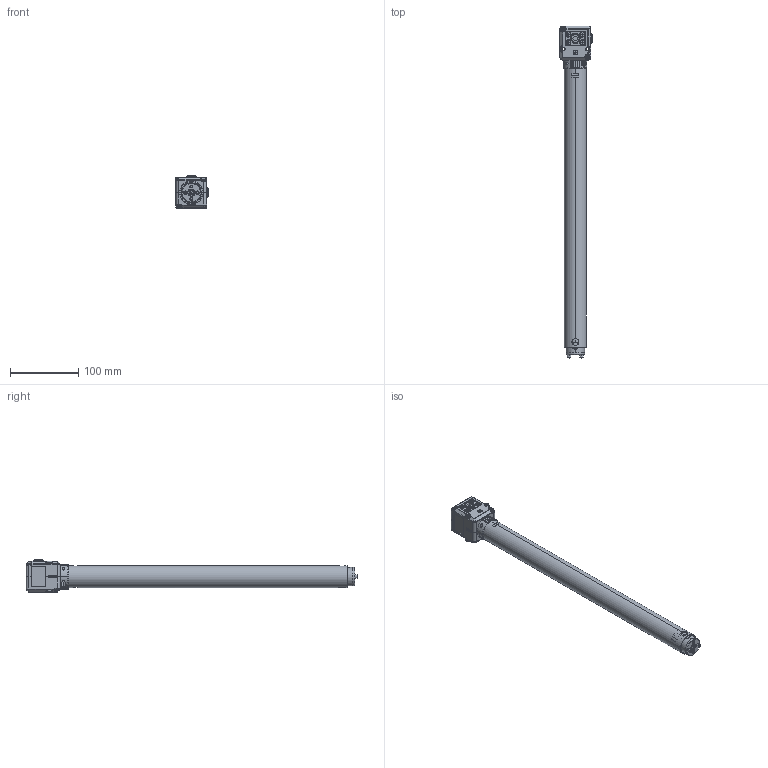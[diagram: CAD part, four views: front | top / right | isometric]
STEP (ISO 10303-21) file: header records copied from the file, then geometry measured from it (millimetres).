
FILE_DESCRIPTION (( 'STEP AP203' ), '1' );
FILE_NAME ('3D_TBS9.STEP', '2018-12-11T11:00:27', ( '' ), ( '' ), 'SwSTEP 2.0', 'SolidWorks 2015', '' );
FILE_SCHEMA (( 'CONFIG_CONTROL_DESIGN' ));
Length unit declared in the file: millimetre
Products named in the file (1): 3D_TBS9
Bounding box: 47 x 487 x 47 mm (x, y, z)
Volume: 425223.2 mm3; surface area: 74966.2 mm2
Topology: 4 solids, 6 shells, 1165 faces, 2911 edges, 1791 vertices
Faces by surface type: plane 500, cylinder 381, torus 134, cone 74, bspline 58, sphere 18
Entity records: 41649 total; most frequent: CARTESIAN_POINT 13935, DIRECTION 5818, ORIENTED_EDGE 5790, EDGE_CURVE 2895, AXIS2_PLACEMENT_3D 2120, VERTEX_POINT 1791, LINE 1578, VECTOR 1578
